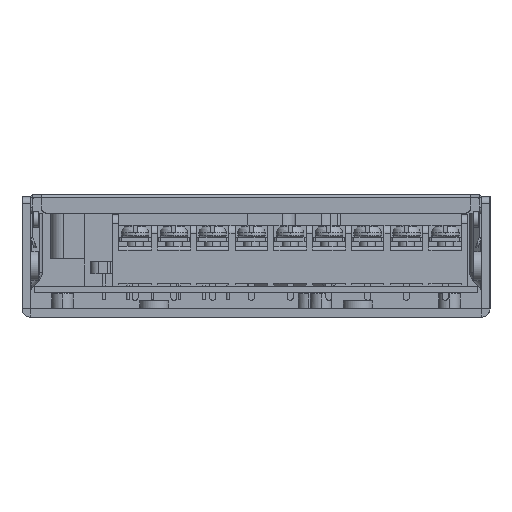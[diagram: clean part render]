
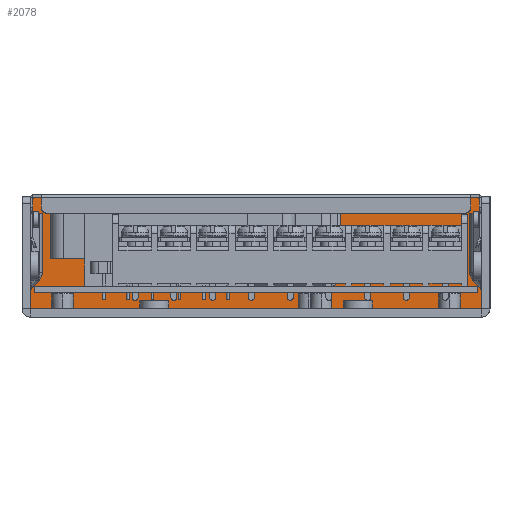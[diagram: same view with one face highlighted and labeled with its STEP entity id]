
A CAD part, left-side view. The second image highlights one B-rep face of the part: STEP entity #2078.
In plain terms, the highlighted planar face has unit normal (-1, 0, 0).
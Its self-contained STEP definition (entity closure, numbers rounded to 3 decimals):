
#2078=ADVANCED_FACE('',(#4175,#2530),#29364,.T.);
#2530=FACE_BOUND('',#6251,.T.);
#4175=FACE_OUTER_BOUND('',#6250,.T.);
#6250=EDGE_LOOP('',(#14507,#14508,#14509,#14510,#14511,#14512,#14513,#14514,
#14515,#14516,#14517,#14518,#14519,#14520,#14521,#14522));
#6251=EDGE_LOOP('',(#14523,#14524,#14525,#14526,#14527,#14528));
#14507=ORIENTED_EDGE('',*,*,#19718,.T.);
#14508=ORIENTED_EDGE('',*,*,#19719,.T.);
#14509=ORIENTED_EDGE('',*,*,#19720,.T.);
#14510=ORIENTED_EDGE('',*,*,#19721,.T.);
#14511=ORIENTED_EDGE('',*,*,#19722,.T.);
#14512=ORIENTED_EDGE('',*,*,#19723,.T.);
#14513=ORIENTED_EDGE('',*,*,#19958,.T.);
#14514=ORIENTED_EDGE('',*,*,#19724,.T.);
#14515=ORIENTED_EDGE('',*,*,#19962,.T.);
#14516=ORIENTED_EDGE('',*,*,#19725,.T.);
#14517=ORIENTED_EDGE('',*,*,#19726,.T.);
#14518=ORIENTED_EDGE('',*,*,#19727,.T.);
#14519=ORIENTED_EDGE('',*,*,#19728,.T.);
#14520=ORIENTED_EDGE('',*,*,#19729,.T.);
#14521=ORIENTED_EDGE('',*,*,#19730,.T.);
#14522=ORIENTED_EDGE('',*,*,#19493,.F.);
#14523=ORIENTED_EDGE('',*,*,#19736,.T.);
#14524=ORIENTED_EDGE('',*,*,#19731,.T.);
#14525=ORIENTED_EDGE('',*,*,#19732,.T.);
#14526=ORIENTED_EDGE('',*,*,#19733,.T.);
#14527=ORIENTED_EDGE('',*,*,#19734,.T.);
#14528=ORIENTED_EDGE('',*,*,#19735,.T.);
#19493=EDGE_CURVE('',#27232,#27233,#24359,.T.);
#19718=EDGE_CURVE('',#27232,#27364,#24491,.T.);
#19719=EDGE_CURVE('',#27364,#27365,#24492,.T.);
#19720=EDGE_CURVE('',#27365,#27366,#24493,.T.);
#19721=EDGE_CURVE('',#27366,#27367,#24494,.T.);
#19722=EDGE_CURVE('',#27367,#27368,#24495,.T.);
#19723=EDGE_CURVE('',#27368,#27369,#24496,.T.);
#19724=EDGE_CURVE('',#27370,#27371,#24497,.T.);
#19725=EDGE_CURVE('',#27372,#27373,#24498,.T.);
#19726=EDGE_CURVE('',#27373,#27374,#24499,.T.);
#19727=EDGE_CURVE('',#27374,#27375,#24500,.T.);
#19728=EDGE_CURVE('',#27375,#27376,#24501,.T.);
#19729=EDGE_CURVE('',#27376,#27377,#24502,.T.);
#19730=EDGE_CURVE('',#27377,#27233,#24503,.T.);
#19731=EDGE_CURVE('',#27378,#27379,#24504,.T.);
#19732=EDGE_CURVE('',#27379,#27380,#21535,.T.);
#19733=EDGE_CURVE('',#27380,#27381,#24505,.T.);
#19734=EDGE_CURVE('',#27381,#27382,#21536,.T.);
#19735=EDGE_CURVE('',#27382,#27383,#24506,.T.);
#19736=EDGE_CURVE('',#27383,#27378,#24507,.T.);
#19958=EDGE_CURVE('',#27369,#27370,#21594,.T.);
#19962=EDGE_CURVE('',#27371,#27372,#21596,.T.);
#21535=(
BOUNDED_CURVE()
B_SPLINE_CURVE(2,(#63554,#63555,#63556),.UNSPECIFIED.,.F.,.F.)
B_SPLINE_CURVE_WITH_KNOTS((3,3),(0.,8.362),.UNSPECIFIED.)
CURVE()
GEOMETRIC_REPRESENTATION_ITEM()
RATIONAL_B_SPLINE_CURVE((1.,0.721,1.))
REPRESENTATION_ITEM('')
);
#21536=(
BOUNDED_CURVE()
B_SPLINE_CURVE(2,(#63559,#63560,#63561),.UNSPECIFIED.,.F.,.F.)
B_SPLINE_CURVE_WITH_KNOTS((3,3),(0.,8.362),.UNSPECIFIED.)
CURVE()
GEOMETRIC_REPRESENTATION_ITEM()
RATIONAL_B_SPLINE_CURVE((1.,0.721,1.))
REPRESENTATION_ITEM('')
);
#21594=(
BOUNDED_CURVE()
B_SPLINE_CURVE(2,(#64139,#64140,#64141),.UNSPECIFIED.,.F.,.F.)
B_SPLINE_CURVE_WITH_KNOTS((3,3),(-2.356,0.),.UNSPECIFIED.)
CURVE()
GEOMETRIC_REPRESENTATION_ITEM()
RATIONAL_B_SPLINE_CURVE((1.,0.707,1.))
REPRESENTATION_ITEM('')
);
#21596=(
BOUNDED_CURVE()
B_SPLINE_CURVE(2,(#64149,#64150,#64151),.UNSPECIFIED.,.F.,.F.)
B_SPLINE_CURVE_WITH_KNOTS((3,3),(-2.356,0.),.UNSPECIFIED.)
CURVE()
GEOMETRIC_REPRESENTATION_ITEM()
RATIONAL_B_SPLINE_CURVE((1.,0.707,1.))
REPRESENTATION_ITEM('')
);
#24359=B_SPLINE_CURVE_WITH_KNOTS('',1,(#62843,#62844),.UNSPECIFIED.,.F.,
 .F.,(2,2),(0.,110.6),.UNSPECIFIED.);
#24491=B_SPLINE_CURVE_WITH_KNOTS('',1,(#63526,#63527),.UNSPECIFIED.,.F.,
 .F.,(2,2),(0.,0.2),.UNSPECIFIED.);
#24492=B_SPLINE_CURVE_WITH_KNOTS('',1,(#63528,#63529),.UNSPECIFIED.,.F.,
 .F.,(2,2),(0.,18.8),.UNSPECIFIED.);
#24493=B_SPLINE_CURVE_WITH_KNOTS('',1,(#63530,#63531),.UNSPECIFIED.,.F.,
 .F.,(2,2),(0.,1.6),.UNSPECIFIED.);
#24494=B_SPLINE_CURVE_WITH_KNOTS('',1,(#63532,#63533),.UNSPECIFIED.,.F.,
 .F.,(2,2),(0.,5.),.UNSPECIFIED.);
#24495=B_SPLINE_CURVE_WITH_KNOTS('',1,(#63534,#63535),.UNSPECIFIED.,.F.,
 .F.,(2,2),(0.,1.6),.UNSPECIFIED.);
#24496=B_SPLINE_CURVE_WITH_KNOTS('',1,(#63536,#63537),.UNSPECIFIED.,.F.,
 .F.,(2,2),(0.,2.),.UNSPECIFIED.);
#24497=B_SPLINE_CURVE_WITH_KNOTS('',1,(#63538,#63539),.UNSPECIFIED.,.F.,
 .F.,(2,2),(0.,107.6),.UNSPECIFIED.);
#24498=B_SPLINE_CURVE_WITH_KNOTS('',1,(#63540,#63541),.UNSPECIFIED.,.F.,
 .F.,(2,2),(0.,2.),.UNSPECIFIED.);
#24499=B_SPLINE_CURVE_WITH_KNOTS('',1,(#63542,#63543),.UNSPECIFIED.,.F.,
 .F.,(2,2),(0.,1.6),.UNSPECIFIED.);
#24500=B_SPLINE_CURVE_WITH_KNOTS('',1,(#63544,#63545),.UNSPECIFIED.,.F.,
 .F.,(2,2),(0.,5.),.UNSPECIFIED.);
#24501=B_SPLINE_CURVE_WITH_KNOTS('',1,(#63546,#63547),.UNSPECIFIED.,.F.,
 .F.,(2,2),(0.,1.6),.UNSPECIFIED.);
#24502=B_SPLINE_CURVE_WITH_KNOTS('',1,(#63548,#63549),.UNSPECIFIED.,.F.,
 .F.,(2,2),(0.,18.8),.UNSPECIFIED.);
#24503=B_SPLINE_CURVE_WITH_KNOTS('',1,(#63550,#63551),.UNSPECIFIED.,.F.,
 .F.,(2,2),(0.,0.2),.UNSPECIFIED.);
#24504=B_SPLINE_CURVE_WITH_KNOTS('',1,(#63552,#63553),.UNSPECIFIED.,.F.,
 .F.,(2,2),(0.,15.062),.UNSPECIFIED.);
#24505=B_SPLINE_CURVE_WITH_KNOTS('',1,(#63557,#63558),.UNSPECIFIED.,.F.,
 .F.,(2,2),(0.,42.123),.UNSPECIFIED.);
#24506=B_SPLINE_CURVE_WITH_KNOTS('',1,(#63562,#63563),.UNSPECIFIED.,.F.,
 .F.,(2,2),(0.,15.062),.UNSPECIFIED.);
#24507=B_SPLINE_CURVE_WITH_KNOTS('',1,(#63564,#63565),.UNSPECIFIED.,.F.,
 .F.,(2,2),(0.,50.485),.UNSPECIFIED.);
#27232=VERTEX_POINT('',#61836);
#27233=VERTEX_POINT('',#61837);
#27364=VERTEX_POINT('',#61968);
#27365=VERTEX_POINT('',#61969);
#27366=VERTEX_POINT('',#61970);
#27367=VERTEX_POINT('',#61971);
#27368=VERTEX_POINT('',#61972);
#27369=VERTEX_POINT('',#61973);
#27370=VERTEX_POINT('',#61974);
#27371=VERTEX_POINT('',#61975);
#27372=VERTEX_POINT('',#61976);
#27373=VERTEX_POINT('',#61977);
#27374=VERTEX_POINT('',#61978);
#27375=VERTEX_POINT('',#61979);
#27376=VERTEX_POINT('',#61980);
#27377=VERTEX_POINT('',#61981);
#27378=VERTEX_POINT('',#61982);
#27379=VERTEX_POINT('',#61983);
#27380=VERTEX_POINT('',#61984);
#27381=VERTEX_POINT('',#61985);
#27382=VERTEX_POINT('',#61986);
#27383=VERTEX_POINT('',#61987);
#29364=PLANE('',#30542);
#30542=AXIS2_PLACEMENT_3D('',#57971,#31703,$);
#31703=DIRECTION('',(-1.,0.,0.));
#57971=CARTESIAN_POINT('',(213.,123.98,32.37));
#61836=CARTESIAN_POINT('',(213.,2.2,2.));
#61837=CARTESIAN_POINT('',(213.,112.8,2.));
#61968=CARTESIAN_POINT('',(213.,2.2,2.2));
#61969=CARTESIAN_POINT('',(213.,2.2,21.));
#61970=CARTESIAN_POINT('',(213.,3.8,21.));
#61971=CARTESIAN_POINT('',(213.,3.8,26.));
#61972=CARTESIAN_POINT('',(213.,2.2,26.));
#61973=CARTESIAN_POINT('',(213.,2.2,28.));
#61974=CARTESIAN_POINT('',(213.,3.7,29.5));
#61975=CARTESIAN_POINT('',(213.,111.3,29.5));
#61976=CARTESIAN_POINT('',(213.,112.8,28.));
#61977=CARTESIAN_POINT('',(213.,112.8,26.));
#61978=CARTESIAN_POINT('',(213.,111.2,26.));
#61979=CARTESIAN_POINT('',(213.,111.2,21.));
#61980=CARTESIAN_POINT('',(213.,112.8,21.));
#61981=CARTESIAN_POINT('',(213.,112.8,2.2));
#61982=CARTESIAN_POINT('',(213.,36.757,26.));
#61983=CARTESIAN_POINT('',(213.,36.757,10.938));
#61984=CARTESIAN_POINT('',(213.,40.938,6.757));
#61985=CARTESIAN_POINT('',(213.,83.062,6.757));
#61986=CARTESIAN_POINT('',(213.,87.243,10.938));
#61987=CARTESIAN_POINT('',(213.,87.243,26.));
#62843=CARTESIAN_POINT('',(213.,2.2,2.));
#62844=CARTESIAN_POINT('',(213.,112.8,2.));
#63526=CARTESIAN_POINT('',(213.,2.2,2.));
#63527=CARTESIAN_POINT('',(213.,2.2,2.2));
#63528=CARTESIAN_POINT('',(213.,2.2,2.2));
#63529=CARTESIAN_POINT('',(213.,2.2,21.));
#63530=CARTESIAN_POINT('',(213.,2.2,21.));
#63531=CARTESIAN_POINT('',(213.,3.8,21.));
#63532=CARTESIAN_POINT('',(213.,3.8,21.));
#63533=CARTESIAN_POINT('',(213.,3.8,26.));
#63534=CARTESIAN_POINT('',(213.,3.8,26.));
#63535=CARTESIAN_POINT('',(213.,2.2,26.));
#63536=CARTESIAN_POINT('',(213.,2.2,26.));
#63537=CARTESIAN_POINT('',(213.,2.2,28.));
#63538=CARTESIAN_POINT('',(213.,3.7,29.5));
#63539=CARTESIAN_POINT('',(213.,111.3,29.5));
#63540=CARTESIAN_POINT('',(213.,112.8,28.));
#63541=CARTESIAN_POINT('',(213.,112.8,26.));
#63542=CARTESIAN_POINT('',(213.,112.8,26.));
#63543=CARTESIAN_POINT('',(213.,111.2,26.));
#63544=CARTESIAN_POINT('',(213.,111.2,26.));
#63545=CARTESIAN_POINT('',(213.,111.2,21.));
#63546=CARTESIAN_POINT('',(213.,111.2,21.));
#63547=CARTESIAN_POINT('',(213.,112.8,21.));
#63548=CARTESIAN_POINT('',(213.,112.8,21.));
#63549=CARTESIAN_POINT('',(213.,112.8,2.2));
#63550=CARTESIAN_POINT('',(213.,112.8,2.2));
#63551=CARTESIAN_POINT('',(213.,112.8,2.));
#63552=CARTESIAN_POINT('',(213.,36.757,26.));
#63553=CARTESIAN_POINT('',(213.,36.757,10.938));
#63554=CARTESIAN_POINT('',(213.,36.757,10.938));
#63555=CARTESIAN_POINT('',(213.,36.757,6.757));
#63556=CARTESIAN_POINT('',(213.,40.938,6.757));
#63557=CARTESIAN_POINT('',(213.,40.938,6.757));
#63558=CARTESIAN_POINT('',(213.,83.062,6.757));
#63559=CARTESIAN_POINT('',(213.,83.062,6.757));
#63560=CARTESIAN_POINT('',(213.,87.243,6.757));
#63561=CARTESIAN_POINT('',(213.,87.243,10.938));
#63562=CARTESIAN_POINT('',(213.,87.243,10.938));
#63563=CARTESIAN_POINT('',(213.,87.243,26.));
#63564=CARTESIAN_POINT('',(213.,87.243,26.));
#63565=CARTESIAN_POINT('',(213.,36.757,26.));
#64139=CARTESIAN_POINT('',(213.,2.2,28.));
#64140=CARTESIAN_POINT('',(213.,2.2,29.5));
#64141=CARTESIAN_POINT('',(213.,3.7,29.5));
#64149=CARTESIAN_POINT('',(213.,111.3,29.5));
#64150=CARTESIAN_POINT('',(213.,112.8,29.5));
#64151=CARTESIAN_POINT('',(213.,112.8,28.));
